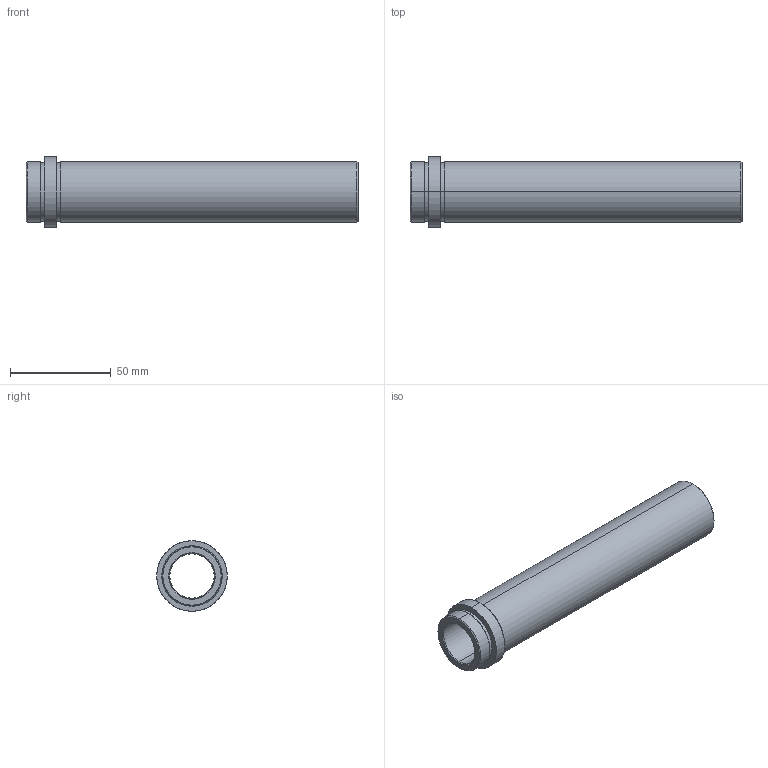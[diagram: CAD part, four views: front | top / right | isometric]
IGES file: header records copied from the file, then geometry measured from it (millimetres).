
Start section: SolidWorks IGES FILE using analytic representation for surfaces
Global section: file name: D:\zzzzz\Delta\D21\22\D21 - 22x156.IGS; native system: SolidWorks 2004 by SolidWorks Corporation; preprocessor: Version 5.3; author: Hkn; date: 080326.192634; units: millimetre
Bounding box: 165 x 35 x 35 mm (x, y, z)
Surface area: 28290.2 mm2 (no closed solid volume)
Topology: 0 solids, 0 shells, 26 faces, 784 edges, 784 vertices
Faces by surface type: revolution 20, bspline 6
